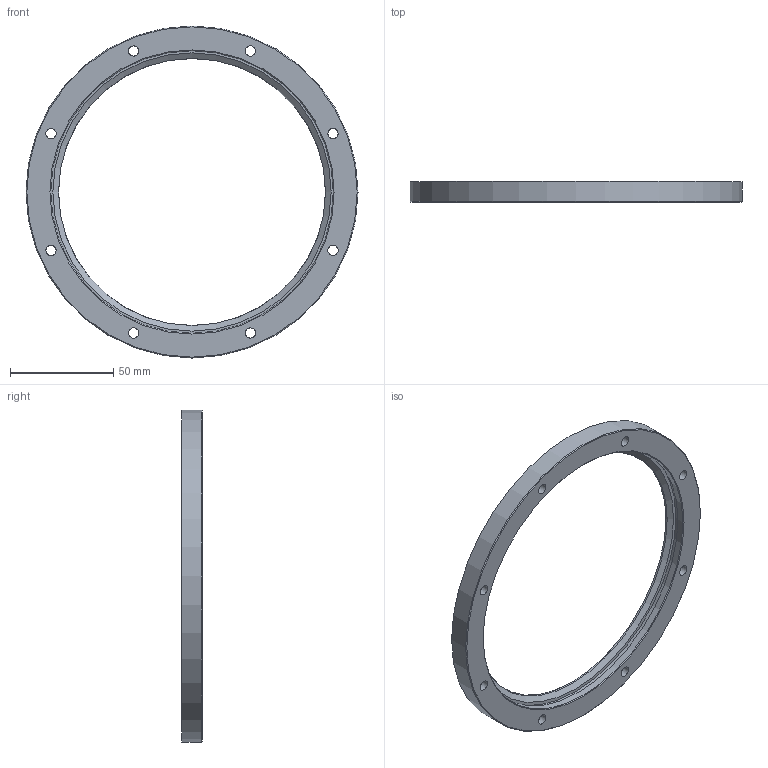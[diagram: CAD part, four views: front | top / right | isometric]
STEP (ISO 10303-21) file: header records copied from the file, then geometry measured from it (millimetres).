
FILE_DESCRIPTION(('STEP AP203'),'1');
FILE_NAME('RIV 161 R360.stp','2022-07-19T05:00:46',(' '),(' '),'Spatial InterOp 3D',' ',' ');
FILE_SCHEMA(('CONFIG_CONTROL_DESIGN'));
Length unit declared in the file: millimetre
Products named in the file (1): RIV 161 R360
Bounding box: 161 x 10 x 161 mm (x, y, z)
Volume: 57670.4 mm3; surface area: 24198.8 mm2
Topology: 1 solids, 1 shells, 36 faces, 75 edges, 51 vertices
Faces by surface type: cylinder 19, plane 12, cone 4, torus 1
Full cylindrical faces by diameter (mm): 5 x8, 8 x8, 137 x1, 138.2 x1, 161 x1
Entity records: 902 total; most frequent: DIRECTION 162, CARTESIAN_POINT 125, EDGE_LOOP 88, ORIENTED_EDGE 88, AXIS2_PLACEMENT_3D 81, FACE_OUTER_BOUND 56, EDGE_CURVE 44, VERTEX_POINT 44
